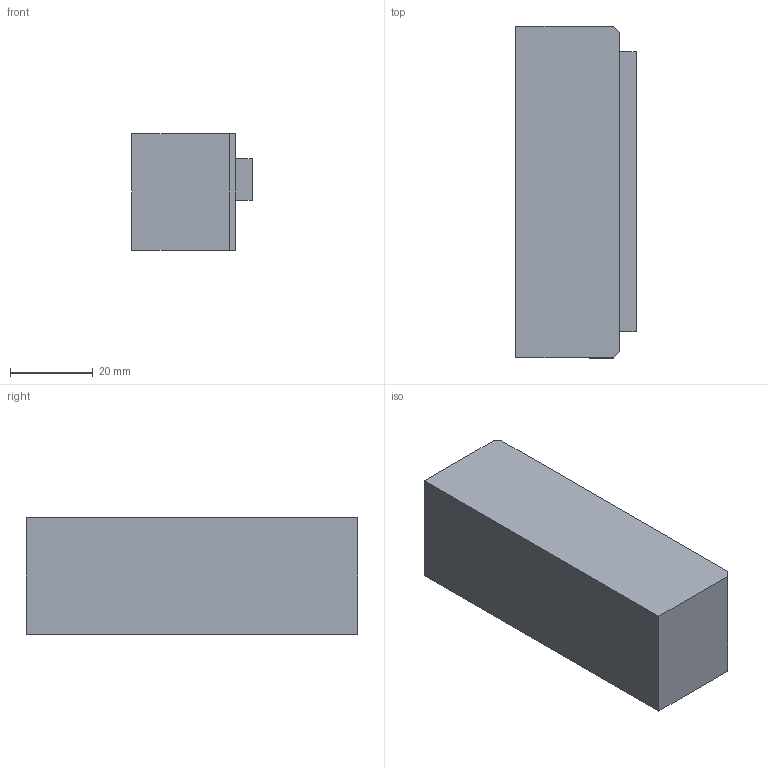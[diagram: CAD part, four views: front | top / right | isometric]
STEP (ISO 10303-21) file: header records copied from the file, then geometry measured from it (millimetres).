
FILE_DESCRIPTION (( 'STEP AP203' ), '1' );
FILE_NAME ('008 embout.STEP', '2021-10-27T18:20:48', ( '' ), ( '' ), 'SwSTEP 2.0', 'SolidWorks 2019', '' );
FILE_SCHEMA (( 'CONFIG_CONTROL_DESIGN' ));
Length unit declared in the file: millimetre
Products named in the file (1): 008 embout
Bounding box: 29 x 80 x 28 mm (x, y, z)
Volume: 57920.7 mm3; surface area: 11826.4 mm2
Topology: 1 solids, 1 shells, 35 faces, 86 edges, 54 vertices
Faces by surface type: plane 19, cylinder 12, bspline 4
Entity records: 1093 total; most frequent: CARTESIAN_POINT 200, DIRECTION 170, ORIENTED_EDGE 164, EDGE_CURVE 82, LINE 58, VECTOR 58, AXIS2_PLACEMENT_3D 56, VERTEX_POINT 54
